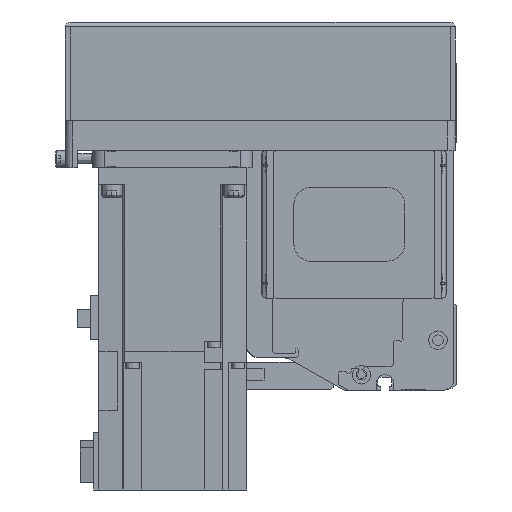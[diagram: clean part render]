
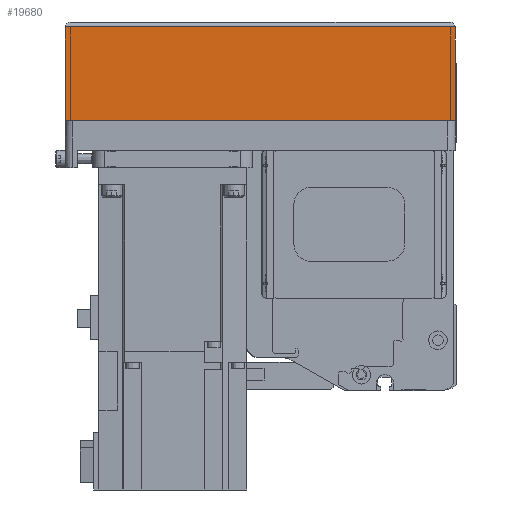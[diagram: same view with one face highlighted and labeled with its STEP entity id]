
A CAD part, left-side view. The second image highlights one B-rep face of the part: STEP entity #19680.
In plain terms, the highlighted planar face has unit normal (-1, 0, 0) as drawn and (0, 1, 0) by its records, which use the part's own axes.
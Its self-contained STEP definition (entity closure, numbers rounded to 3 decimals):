
#3012=ORIENTED_EDGE('',*,*,#7877,.F.);
#3013=ORIENTED_EDGE('',*,*,#7946,.F.);
#3014=ORIENTED_EDGE('',*,*,#7894,.T.);
#3015=ORIENTED_EDGE('',*,*,#7869,.T.);
#7869=EDGE_CURVE('',#10488,#10487,#12501,.T.);
#7877=EDGE_CURVE('',#10495,#10487,#12509,.T.);
#7894=EDGE_CURVE('',#10505,#10488,#12522,.T.);
#7946=EDGE_CURVE('',#10505,#10495,#12551,.T.);
#10487=VERTEX_POINT('',#30144);
#10488=VERTEX_POINT('',#30146);
#10495=VERTEX_POINT('',#30163);
#10505=VERTEX_POINT('',#30194);
#12501=LINE('',#30145,#14221);
#12509=LINE('',#30162,#14229);
#12522=LINE('',#30193,#14242);
#12551=LINE('',#30288,#14271);
#14221=VECTOR('',#24117,1000.);
#14229=VECTOR('',#24129,1000.);
#14242=VECTOR('',#24158,1000.);
#14271=VECTOR('',#24275,1000.);
#15818=EDGE_LOOP('',(#3012,#3013,#3014,#3015));
#17438=FACE_BOUND('',#15818,.T.);
#18887=PLANE('',#21105);
#19680=ADVANCED_FACE('',(#17438),#18887,.T.);
#21105=AXIS2_PLACEMENT_3D('',#30287,#24273,#24274);
#24117=DIRECTION('',(1.,0.,0.));
#24129=DIRECTION('',(0.,0.,1.));
#24158=DIRECTION('',(0.,0.,1.));
#24273=DIRECTION('',(0.,1.,0.));
#24274=DIRECTION('',(0.,0.,1.));
#24275=DIRECTION('',(1.,0.,0.));
#30144=CARTESIAN_POINT('',(0.,39.,-12.1));
#30145=CARTESIAN_POINT('',(-158.,39.,-12.1));
#30146=CARTESIAN_POINT('',(-158.,39.,-12.1));
#30162=CARTESIAN_POINT('',(0.,39.,-50.));
#30163=CARTESIAN_POINT('',(0.,39.,-50.));
#30193=CARTESIAN_POINT('',(-158.,39.,-50.));
#30194=CARTESIAN_POINT('',(-158.,39.,-50.));
#30287=CARTESIAN_POINT('',(-158.,39.,-50.));
#30288=CARTESIAN_POINT('',(-158.,39.,-50.));
